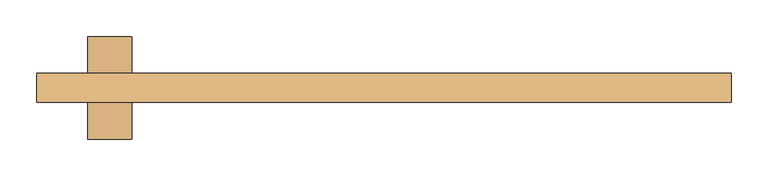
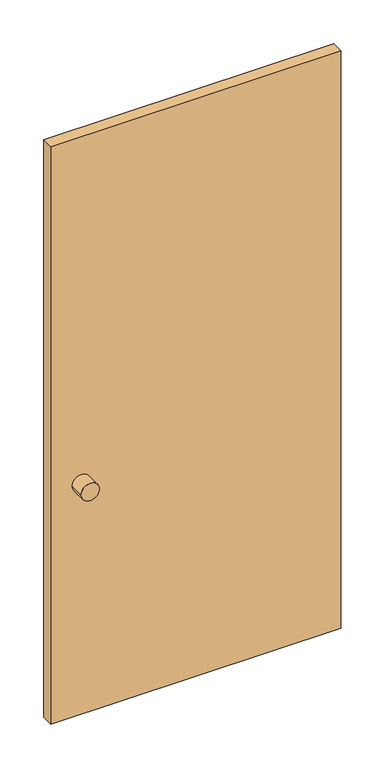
"""IFC4 building model written with IfcOpenShell, lengths in millimetres: door geometry, 営_片開き扉 : LD3 950*2000."""

import ifcopenshell
import ifcopenshell.guid

model = None  # the IFC model being written
_history = None  # IfcOwnerHistory: only IFC2X3 demands one
_inside = {}  # id of a spatial element -> (the spatial element, [elements in it])
_under = {}  # id of a project, library or spatial element -> (it, [spatial elements below it])
_declared = {}  # id of a project -> (the project, [libraries it declares])
_typed = {}  # id of a type object -> (the type object, [elements of that type])
_made_of = {}  # id of a material, layer set ... -> (it, [elements and type objects made of it])


def new_model(schema):
    """Start an empty IFC model of exactly this schema.

    Asked for "IFC4X3", IfcOpenShell would pick the latest addendum, in which some entities
    have other attributes; the version numbers below select the first issue.
    IFC2X3 requires an IfcOwnerHistory on every rooted entity: one is made here for all.
    """
    global model, _history
    if schema == "IFC4X3":
        model = ifcopenshell.file(schema_version=(4, 3, 0, 0))
    else:
        model = ifcopenshell.file(schema=schema)
    _inside.clear()
    _under.clear()
    _declared.clear()
    _typed.clear()
    _made_of.clear()
    _history = None
    if model.schema == "IFC2X3":
        org = make("IfcOrganization", Name="unknown")
        user = make(
            "IfcPersonAndOrganization",
            ThePerson=make("IfcPerson", FamilyName="unknown"),
            TheOrganization=org,
        )
        app = make(
            "IfcApplication",
            ApplicationDeveloper=org,
            Version="unknown",
            ApplicationFullName="unknown",
            ApplicationIdentifier="unknown",
        )
        _history = make(
            "IfcOwnerHistory",
            OwningUser=user,
            OwningApplication=app,
            ChangeAction="ADDED",
            CreationDate=0,
        )
    return model


def make(cls, **values):
    """One entity of the class cls with the attributes given. An attribute that is None is left unset."""
    return model.create_entity(
        cls, **{name: value for name, value in values.items() if value is not None}
    )


def rooted(cls, **values):
    """An entity with a GlobalId (a new one), such as an element, a storey or a relation."""
    return make(cls, GlobalId=ifcopenshell.guid.new(), OwnerHistory=_history, **values)


def si_unit(unit_type, name, prefix=None):
    """IfcSIUnit, for example si_unit("LENGTHUNIT", "METRE", prefix="MILLI")."""
    return make("IfcSIUnit", UnitType=unit_type, Prefix=prefix, Name=name)


def assignment(units):
    """IfcUnitAssignment: the units of a project."""
    return None if units is None else make("IfcUnitAssignment", Units=units)


def point(xyz):
    """IfcCartesianPoint."""
    return None if xyz is None else make("IfcCartesianPoint", Coordinates=xyz)


def direction(xyz):
    """IfcDirection."""
    return None if xyz is None else make("IfcDirection", DirectionRatios=xyz)


def frame(location, z_axis=None, x_axis=None):
    """IfcAxis2Placement3D, a coordinate frame: its origin and axes. An axis left out is left unset."""
    return make(
        "IfcAxis2Placement3D",
        Location=point(location),
        Axis=direction(z_axis),
        RefDirection=direction(x_axis),
    )


def frame_2d(location, x_axis=None):
    """IfcAxis2Placement2D, a coordinate frame in the plane: its origin and x axis."""
    return make(
        "IfcAxis2Placement2D", Location=point(location), RefDirection=direction(x_axis)
    )


def origin():
    """The frame at (0, 0, 0) with its axes left unset."""
    return frame((0.0, 0.0, 0.0))


def origin_with_axes():
    """The frame at (0, 0, 0) with the z axis (0, 0, 1) and the x axis (1, 0, 0) written out."""
    return frame((0.0, 0.0, 0.0), z_axis=(0.0, 0.0, 1.0), x_axis=(1.0, 0.0, 0.0))


def place(relative_to, where):
    """IfcLocalPlacement: puts the frame where relative to a parent placement (None: the world)."""
    return make(
        "IfcLocalPlacement", PlacementRelTo=relative_to, RelativePlacement=where
    )


def context(
    kind, dimensions, precision=None, world=None, true_north=None, identifier=None
):
    """IfcGeometricRepresentationContext, for example the 3D "Model" context."""
    return make(
        "IfcGeometricRepresentationContext",
        ContextIdentifier=identifier,
        ContextType=kind,
        CoordinateSpaceDimension=dimensions,
        Precision=precision,
        WorldCoordinateSystem=world,
        TrueNorth=true_north,
    )


def project(units=None, contexts=None):
    """IfcProject with its units and contexts."""
    return rooted(
        "IfcProject",
        Name="project",
        RepresentationContexts=contexts,
        UnitsInContext=assignment(units),
    )


def spatial(cls, under=None, at=None, **own):
    """A site, building, storey or space (cls), placed at a placement, below another one or the project."""
    s = rooted(cls, ObjectPlacement=at, **own)
    if under is not None:
        _under.setdefault(under.id(), (under, []))[1].append(s)
    return s


def polyline(points):
    """IfcPolyline through the points."""
    return make("IfcPolyline", Points=[point(p) for p in points])


def circle_curve(where, radius):
    """IfcCircle in the frame where."""
    return make("IfcCircle", Position=where, Radius=radius)


def trimmed(basis, trim1, trim2, sense, master):
    """IfcTrimmedCurve: the piece of a basis curve between two trims."""
    return make(
        "IfcTrimmedCurve",
        BasisCurve=basis,
        Trim1=trim1,
        Trim2=trim2,
        SenseAgreement=sense,
        MasterRepresentation=master,
    )


def segment(curve, same_sense, transition):
    """IfcCompositeCurveSegment."""
    return make(
        "IfcCompositeCurveSegment",
        Transition=transition,
        SameSense=same_sense,
        ParentCurve=curve,
    )


def composite_curve(segments, self_intersect=None):
    """IfcCompositeCurve: segments joined end to end."""
    return make("IfcCompositeCurve", Segments=segments, SelfIntersect=self_intersect)


def outline(outer, holes=None, kind="AREA"):
    """IfcArbitraryClosedProfileDef: a profile drawn as a closed curve; with holes, ...WithVoids."""
    if holes is None:
        return make("IfcArbitraryClosedProfileDef", ProfileType=kind, OuterCurve=outer)
    return make(
        "IfcArbitraryProfileDefWithVoids",
        ProfileType=kind,
        OuterCurve=outer,
        InnerCurves=holes,
    )


def extrude(swept, where, along, depth):
    """IfcExtrudedAreaSolid: the profile swept, set in the frame where, extruded along a direction by depth."""
    return make(
        "IfcExtrudedAreaSolid",
        SweptArea=swept,
        Position=where,
        ExtrudedDirection=direction(along),
        Depth=depth,
    )


def shape(context_of_items, identifier, shape_type, items):
    """IfcShapeRepresentation: the items that make up one representation, for example the "Body"."""
    return make(
        "IfcShapeRepresentation",
        ContextOfItems=context_of_items,
        RepresentationIdentifier=identifier,
        RepresentationType=shape_type,
        Items=items,
    )


def source(mapping_origin, context_of_items, identifier, shape_type, items):
    """IfcRepresentationMap: a shape defined once, which mapped items show again and again."""
    return make(
        "IfcRepresentationMap",
        MappingOrigin=mapping_origin,
        MappedRepresentation=shape(context_of_items, identifier, shape_type, items),
    )


def transform(
    local_origin,
    x_axis=None,
    y_axis=None,
    z_axis=None,
    scale=None,
    scale2=None,
    scale3=None,
    uniform=True,
):
    """IfcCartesianTransformationOperator3D, or its non-uniform kind. x_axis, y_axis, z_axis: its Axis1, 2, 3."""
    if uniform:
        return make(
            "IfcCartesianTransformationOperator3D",
            Axis1=direction(x_axis),
            Axis2=direction(y_axis),
            LocalOrigin=point(local_origin),
            Scale=scale,
            Axis3=direction(z_axis),
        )
    return make(
        "IfcCartesianTransformationOperator3DnonUniform",
        Axis1=direction(x_axis),
        Axis2=direction(y_axis),
        LocalOrigin=point(local_origin),
        Scale=scale,
        Axis3=direction(z_axis),
        Scale2=scale2,
        Scale3=scale3,
    )


def mapped(mapping_source, mapping_target):
    """IfcMappedItem: shows the shape of a source again, moved by a transform."""
    return make(
        "IfcMappedItem", MappingSource=mapping_source, MappingTarget=mapping_target
    )


def made_of(thing, what):
    """Note that an element or type object is made of a material, layer set ...; save() writes the relation."""
    if what is not None:
        _made_of.setdefault(what.id(), (what, []))[1].append(thing)
    return thing


def element(
    cls,
    number,
    at=None,
    inside=None,
    cuts=None,
    type_object=None,
    material=None,
    context=None,
    identifier="Body",
    shape_type=None,
    held_by="IfcProductDefinitionShape",
    body=None,
    shapes=None,
    **own,
):
    """One element of the class cls, such as IfcWall. Its Tag is "e" and its number.

    at: its placement. inside: the storey or other place that contains it. cuts: it is an
    opening in that element (IfcRelVoidsElement). A single representation is given by context,
    identifier, shape_type and body (its items); several are given by shapes. held_by: the class
    of the entity that holds the representations. save() writes the other relations.
    """
    e = rooted(cls, Tag="e%d" % number, ObjectPlacement=at, **own)
    if body is not None:
        shapes = [shape(context, identifier, shape_type, body)]
    if shapes is not None:
        e.Representation = make(held_by, Representations=shapes)
    if inside is not None:
        _inside.setdefault(inside.id(), (inside, []))[1].append(e)
    if cuts is not None:
        rooted(
            "IfcRelVoidsElement", RelatingBuildingElement=cuts, RelatedOpeningElement=e
        )
    if type_object is not None:
        _typed.setdefault(type_object.id(), (type_object, []))[1].append(e)
    return made_of(e, material)


def aggregate(whole, parts):
    """IfcRelAggregates: a whole, such as a stair, and the parts it consists of."""
    return rooted("IfcRelAggregates", RelatingObject=whole, RelatedObjects=parts)


def save(model, path):
    """Write the relations noted so far, then the file.

    IfcRelAggregates (storeys below a building ...), IfcRelContainedInSpatialStructure (elements
    in a storey), IfcRelDefinesByType, IfcRelAssociatesMaterial and IfcRelDeclares: one each for
    every whole, place, type object, material and project.
    """
    for whole, parts in _under.values():
        aggregate(whole, parts)
    for where, things in _inside.values():
        rooted(
            "IfcRelContainedInSpatialStructure",
            RelatedElements=things,
            RelatingStructure=where,
        )
    for kind, things in _typed.values():
        rooted("IfcRelDefinesByType", RelatedObjects=things, RelatingType=kind)
    for what, things in _made_of.values():
        rooted("IfcRelAssociatesMaterial", RelatedObjects=things, RelatingMaterial=what)
    for by, libraries in _declared.values():
        rooted("IfcRelDeclares", RelatingContext=by, RelatedDefinitions=libraries)
    model.write(path)


def door_0812e9ce(model_context):
    return source(origin(), model_context, "Body", "SweptSolid", [
        extrude(outline(composite_curve([segment(trimmed(circle_curve(frame_2d((800.0, -375.0)), 30.0), [point((800.0, -345.0))], [point((800.0, -405.0))], False, "CARTESIAN"), True, "CONTINUOUS"), segment(trimmed(circle_curve(frame_2d((800.0, -375.0)), 30.0), [point((800.0, -405.0))], [point((800.0, -345.0))], False, "CARTESIAN"), True, "CONTINUOUS")], self_intersect=False)), frame((0.0, -15.0, 0.0), z_axis=(0.0, 1.0, 0.0), x_axis=(0.0, 0.0, 1.0)), (0.0, 0.0, 1.0), 50.0),
        extrude(outline(composite_curve([segment(trimmed(circle_curve(frame_2d((800.0, -375.0)), 30.0), [point((800.0, -345.0))], [point((800.0, -405.0))], False, "CARTESIAN"), True, "CONTINUOUS"), segment(trimmed(circle_curve(frame_2d((800.0, -375.0)), 30.0), [point((800.0, -405.0))], [point((800.0, -345.0))], False, "CARTESIAN"), True, "CONTINUOUS")], self_intersect=False)), frame((0.0, -105.0, 0.0), z_axis=(0.0, 1.0, 0.0), x_axis=(0.0, 0.0, 1.0)), (0.0, 0.0, 1.0), 50.0),
        extrude(outline(polyline([(-475.0, -15.0), (475.0, -15.0), (475.0, -55.0), (-475.0, -55.0), (-475.0, -15.0)])), origin_with_axes(), (0.0, 0.0, 1.0), 2000.0),
    ])


if __name__ == "__main__":
    model = new_model("IFC4")
    model_context = context("Model", 3, world=origin())
    ifc_project = project(units=[si_unit("LENGTHUNIT", "METRE", prefix="MILLI")], contexts=[model_context])
    site = spatial("IfcSite", under=ifc_project)
    building = spatial("IfcBuilding", under=site)
    placement = place(None, origin())
    door_shape = door_0812e9ce(model_context)
    element("IfcDoor", 1, ObjectType="営_片開き扉 : LD3 950*2000", at=placement, inside=building, context=model_context, shape_type="MappedRepresentation", body=[
        mapped(door_shape, transform((0.0, 0.0, 0.0), x_axis=(1.0, 0.0, 0.0), y_axis=(0.0, 1.0, 0.0), z_axis=(0.0, 0.0, 1.0))),
    ])
    save(model, "model.ifc")
